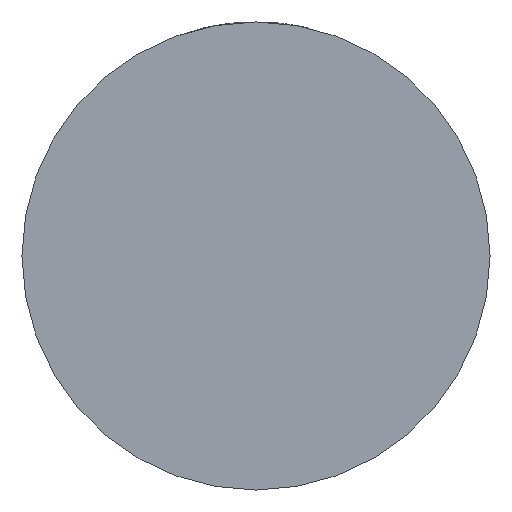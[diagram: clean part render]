
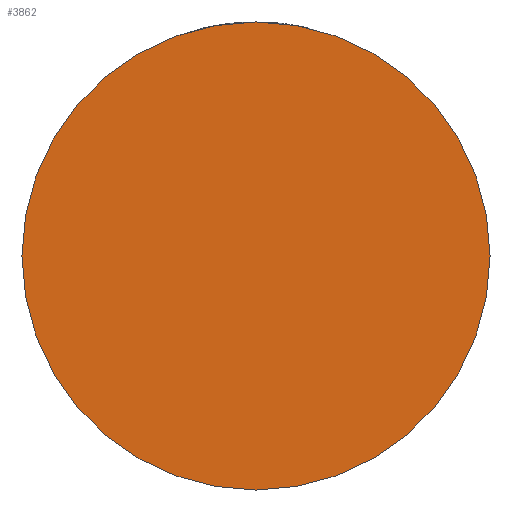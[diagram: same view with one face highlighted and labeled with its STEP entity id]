
A CAD part, front view. The second image highlights one B-rep face of the part: STEP entity #3862.
In plain terms, the highlighted planar face has unit normal (0, -1, 0).
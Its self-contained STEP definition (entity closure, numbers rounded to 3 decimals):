
#205 = VERTEX_POINT ( 'NONE', #3134 ) ;
#686 = AXIS2_PLACEMENT_3D ( 'NONE', #2827, #811, #1122 ) ;
#811 = DIRECTION ( 'NONE',  ( 0., -1., 0. ) ) ;
#888 = CIRCLE ( 'NONE', #686, 40. ) ;
#959 = AXIS2_PLACEMENT_3D ( 'NONE', #3124, #1968, #4147 ) ;
#1122 = DIRECTION ( 'NONE',  ( 1., 0., 0. ) ) ;
#1252 = DIRECTION ( 'NONE',  ( 0., -1., 0. ) ) ;
#1573 = PLANE ( 'NONE',  #3654 ) ;
#1907 = FACE_OUTER_BOUND ( 'NONE', #3065, .T. ) ;
#1965 = VERTEX_POINT ( 'NONE', #3665 ) ;
#1968 = DIRECTION ( 'NONE',  ( 0., -1., 0. ) ) ;
#2398 = DIRECTION ( 'NONE',  ( 1., 0., 0. ) ) ;
#2585 = CIRCLE ( 'NONE', #959, 40. ) ;
#2759 = EDGE_CURVE ( 'NONE', #1965, #205, #2585, .T. ) ;
#2827 = CARTESIAN_POINT ( 'NONE',  ( 0., -28., 0. ) ) ;
#2932 = CARTESIAN_POINT ( 'NONE',  ( 0., -28., 0. ) ) ;
#3065 = EDGE_LOOP ( 'NONE', ( #3097, #3759 ) ) ;
#3097 = ORIENTED_EDGE ( 'NONE', *, *, #2759, .T. ) ;
#3124 = CARTESIAN_POINT ( 'NONE',  ( 0., -28., 0. ) ) ;
#3134 = CARTESIAN_POINT ( 'NONE',  ( 40., -28., 0. ) ) ;
#3654 = AXIS2_PLACEMENT_3D ( 'NONE', #2932, #1252, #2398 ) ;
#3665 = CARTESIAN_POINT ( 'NONE',  ( -40., -28., 0. ) ) ;
#3759 = ORIENTED_EDGE ( 'NONE', *, *, #4050, .T. ) ;
#3862 = ADVANCED_FACE ( 'NONE', ( #1907 ), #1573, .T. ) ;
#4050 = EDGE_CURVE ( 'NONE', #205, #1965, #888, .T. ) ;
#4147 = DIRECTION ( 'NONE',  ( 1., 0., 0. ) ) ;
